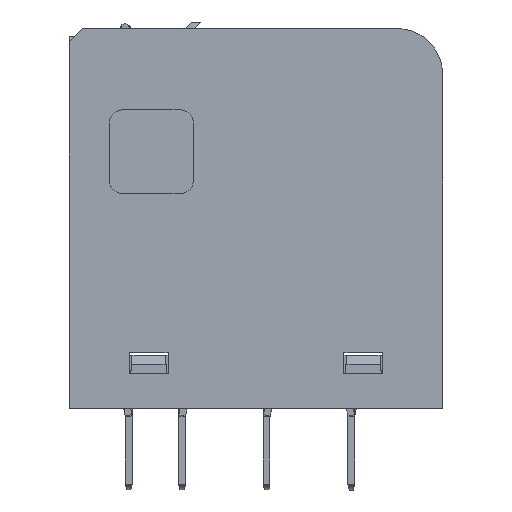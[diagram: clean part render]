
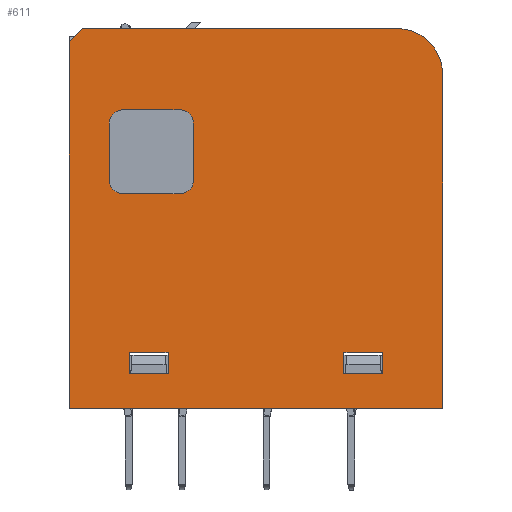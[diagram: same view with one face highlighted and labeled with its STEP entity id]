
A CAD part, top view. The second image highlights one B-rep face of the part: STEP entity #611.
In plain terms, the highlighted planar face has unit normal (0, 0, 1).
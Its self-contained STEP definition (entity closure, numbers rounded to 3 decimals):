
#611=ADVANCED_FACE('',(#7583,#7585,#7587,#7589),#7591,.T.);
#7583=FACE_BOUND('',#7584,.T.);
#7584=EDGE_LOOP('',(#13296,#13297,#13298,#13299,#13300,#13301));
#7585=FACE_BOUND('',#7586,.T.);
#7586=EDGE_LOOP('',(#13302,#13303,#13304,#13305,#13306,#13307,#13308,#13309));
#7587=FACE_BOUND('',#7588,.T.);
#7588=EDGE_LOOP('',(#13310,#13311,#13312,#13313));
#7589=FACE_BOUND('',#7590,.T.);
#7590=EDGE_LOOP('',(#13314,#13315,#13316,#13317));
#7591=PLANE('',#7592);
#7592=AXIS2_PLACEMENT_3D('',#7593,#7594,#7595);
#7593=CARTESIAN_POINT('',(0.,14.4,11.25));
#7594=DIRECTION('',(0.,0.,1.));
#7595=DIRECTION('',(0.,-1.,0.));
#13296=ORIENTED_EDGE('',*,*,#17267,.F.);
#13297=ORIENTED_EDGE('',*,*,#17268,.T.);
#13298=ORIENTED_EDGE('',*,*,#17269,.T.);
#13299=ORIENTED_EDGE('',*,*,#17270,.T.);
#13300=ORIENTED_EDGE('',*,*,#17271,.T.);
#13301=ORIENTED_EDGE('',*,*,#17272,.T.);
#13302=ORIENTED_EDGE('',*,*,#17273,.T.);
#13303=ORIENTED_EDGE('',*,*,#17274,.T.);
#13304=ORIENTED_EDGE('',*,*,#17275,.T.);
#13305=ORIENTED_EDGE('',*,*,#17276,.T.);
#13306=ORIENTED_EDGE('',*,*,#17277,.T.);
#13307=ORIENTED_EDGE('',*,*,#17278,.T.);
#13308=ORIENTED_EDGE('',*,*,#17279,.T.);
#13309=ORIENTED_EDGE('',*,*,#17280,.T.);
#13310=ORIENTED_EDGE('',*,*,#17281,.T.);
#13311=ORIENTED_EDGE('',*,*,#17037,.T.);
#13312=ORIENTED_EDGE('',*,*,#17009,.T.);
#13313=ORIENTED_EDGE('',*,*,#17106,.T.);
#13314=ORIENTED_EDGE('',*,*,#17282,.T.);
#13315=ORIENTED_EDGE('',*,*,#17051,.T.);
#13316=ORIENTED_EDGE('',*,*,#17001,.T.);
#13317=ORIENTED_EDGE('',*,*,#17046,.T.);
#17001=EDGE_CURVE('',#19100,#19098,#19101,.F.);
#17009=EDGE_CURVE('',#19116,#19114,#19117,.F.);
#17037=EDGE_CURVE('',#19166,#19116,#19167,.F.);
#17046=EDGE_CURVE('',#19098,#19180,#19182,.F.);
#17051=EDGE_CURVE('',#19190,#19100,#19191,.F.);
#17106=EDGE_CURVE('',#19114,#19287,#19289,.F.);
#17267=EDGE_CURVE('',#19550,#19551,#19552,.F.);
#17268=EDGE_CURVE('',#19550,#19553,#19554,.T.);
#17269=EDGE_CURVE('',#19553,#19555,#19556,.T.);
#17270=EDGE_CURVE('',#19555,#19557,#19558,.T.);
#17271=EDGE_CURVE('',#19557,#19559,#19560,.T.);
#17272=EDGE_CURVE('',#19559,#19551,#19561,.T.);
#17273=EDGE_CURVE('',#19562,#19563,#19564,.F.);
#17274=EDGE_CURVE('',#19563,#19565,#19566,.F.);
#17275=EDGE_CURVE('',#19565,#19567,#19568,.F.);
#17276=EDGE_CURVE('',#19567,#19569,#19570,.F.);
#17277=EDGE_CURVE('',#19569,#19571,#19572,.F.);
#17278=EDGE_CURVE('',#19571,#19573,#19574,.F.);
#17279=EDGE_CURVE('',#19573,#19575,#19576,.F.);
#17280=EDGE_CURVE('',#19575,#19562,#19577,.F.);
#17281=EDGE_CURVE('',#19287,#19166,#19578,.F.);
#17282=EDGE_CURVE('',#19180,#19190,#19579,.F.);
#19098=VERTEX_POINT('',#22533);
#19100=VERTEX_POINT('',#22537);
#19101=LINE('',#22538,#22539);
#19114=VERTEX_POINT('',#22565);
#19116=VERTEX_POINT('',#22569);
#19117=LINE('',#22570,#22571);
#19166=VERTEX_POINT('',#22675);
#19167=LINE('',#22676,#22677);
#19180=VERTEX_POINT('',#22705);
#19182=LINE('',#22709,#22710);
#19190=VERTEX_POINT('',#22727);
#19191=LINE('',#22728,#22729);
#19287=VERTEX_POINT('',#22934);
#19289=LINE('',#22938,#22939);
#19550=VERTEX_POINT('',#23550);
#19551=VERTEX_POINT('',#23551);
#19552=LINE('',#23552,#23553);
#19553=VERTEX_POINT('',#23555);
#19554=LINE('',#23556,#23557);
#19555=VERTEX_POINT('',#23559);
#19556=LINE('',#23560,#23561);
#19557=VERTEX_POINT('',#23563);
#19558=LINE('',#23564,#23565);
#19559=VERTEX_POINT('',#23567);
#19560=CIRCLE('',#23568,3.4);
#19561=LINE('',#23572,#23573);
#19562=VERTEX_POINT('',#23575);
#19563=VERTEX_POINT('',#23576);
#19564=CIRCLE('',#23577,1.);
#19565=VERTEX_POINT('',#23581);
#19566=LINE('',#23582,#23583);
#19567=VERTEX_POINT('',#23585);
#19568=CIRCLE('',#23586,1.);
#19569=VERTEX_POINT('',#23590);
#19570=LINE('',#23591,#23592);
#19571=VERTEX_POINT('',#23594);
#19572=CIRCLE('',#23595,1.);
#19573=VERTEX_POINT('',#23599);
#19574=LINE('',#23600,#23601);
#19575=VERTEX_POINT('',#23603);
#19576=CIRCLE('',#23604,1.);
#19577=LINE('',#23608,#23609);
#19578=LINE('',#23611,#23612);
#19579=LINE('',#23614,#23615);
#22533=CARTESIAN_POINT('',(6.6,2.6,11.25));
#22537=CARTESIAN_POINT('',(9.5,2.6,11.25));
#22538=CARTESIAN_POINT('',(6.6,2.6,11.25));
#22539=VECTOR('',#22540,1.);
#22540=DIRECTION('',(1.,0.,0.));
#22565=CARTESIAN_POINT('',(-9.5,2.6,11.25));
#22569=CARTESIAN_POINT('',(-6.6,2.6,11.25));
#22570=CARTESIAN_POINT('',(-9.5,2.6,11.25));
#22571=VECTOR('',#22572,1.);
#22572=DIRECTION('',(1.,0.,0.));
#22675=CARTESIAN_POINT('',(-6.6,4.2,11.25));
#22676=CARTESIAN_POINT('',(-6.6,2.6,11.25));
#22677=VECTOR('',#22678,1.);
#22678=DIRECTION('',(0.,1.,0.));
#22705=CARTESIAN_POINT('',(6.6,4.2,11.25));
#22709=CARTESIAN_POINT('',(6.6,4.2,11.25));
#22710=VECTOR('',#22711,1.);
#22711=DIRECTION('',(0.,-1.,0.));
#22727=CARTESIAN_POINT('',(9.5,4.2,11.25));
#22728=CARTESIAN_POINT('',(9.5,2.6,11.25));
#22729=VECTOR('',#22730,1.);
#22730=DIRECTION('',(0.,1.,0.));
#22934=CARTESIAN_POINT('',(-9.5,4.2,11.25));
#22938=CARTESIAN_POINT('',(-9.5,4.2,11.25));
#22939=VECTOR('',#22940,1.);
#22940=DIRECTION('',(0.,-1.,0.));
#23550=CARTESIAN_POINT('',(-14.,27.5,11.25));
#23551=CARTESIAN_POINT('',(-13.,28.5,11.25));
#23552=CARTESIAN_POINT('',(-13.,28.5,11.25));
#23553=VECTOR('',#23554,1.);
#23554=DIRECTION('',(-0.707,-0.707,0.));
#23555=CARTESIAN_POINT('',(-14.,0.,11.25));
#23556=CARTESIAN_POINT('',(-14.,27.5,11.25));
#23557=VECTOR('',#23558,1.);
#23558=DIRECTION('',(0.,-1.,0.));
#23559=CARTESIAN_POINT('',(14.,0.,11.25));
#23560=CARTESIAN_POINT('',(-14.,0.,11.25));
#23561=VECTOR('',#23562,1.);
#23562=DIRECTION('',(1.,0.,0.));
#23563=CARTESIAN_POINT('',(14.,25.1,11.25));
#23564=CARTESIAN_POINT('',(14.,0.,11.25));
#23565=VECTOR('',#23566,1.);
#23566=DIRECTION('',(0.,1.,0.));
#23567=CARTESIAN_POINT('',(10.6,28.5,11.25));
#23568=AXIS2_PLACEMENT_3D('',#23569,#23570,#23571);
#23569=CARTESIAN_POINT('',(10.6,25.1,11.25));
#23570=DIRECTION('',(0.,0.,1.));
#23571=DIRECTION('',(1.,0.,0.));
#23572=CARTESIAN_POINT('',(10.6,28.5,11.25));
#23573=VECTOR('',#23574,1.);
#23574=DIRECTION('',(-1.,0.,0.));
#23575=CARTESIAN_POINT('',(-11.,21.4,11.25));
#23576=CARTESIAN_POINT('',(-10.,22.4,11.25));
#23577=AXIS2_PLACEMENT_3D('',#23578,#23579,#23580);
#23578=CARTESIAN_POINT('',(-10.,21.4,11.25));
#23579=DIRECTION('',(0.,0.,1.));
#23580=DIRECTION('',(0.,1.,0.));
#23581=CARTESIAN_POINT('',(-5.7,22.4,11.25));
#23582=CARTESIAN_POINT('',(-5.7,22.4,11.25));
#23583=VECTOR('',#23584,1.);
#23584=DIRECTION('',(-1.,0.,0.));
#23585=CARTESIAN_POINT('',(-4.7,21.4,11.25));
#23586=AXIS2_PLACEMENT_3D('',#23587,#23588,#23589);
#23587=CARTESIAN_POINT('',(-5.7,21.4,11.25));
#23588=DIRECTION('',(0.,0.,1.));
#23589=DIRECTION('',(1.,0.,0.));
#23590=CARTESIAN_POINT('',(-4.7,17.1,11.25));
#23591=CARTESIAN_POINT('',(-4.7,17.1,11.25));
#23592=VECTOR('',#23593,1.);
#23593=DIRECTION('',(0.,1.,0.));
#23594=CARTESIAN_POINT('',(-5.7,16.1,11.25));
#23595=AXIS2_PLACEMENT_3D('',#23596,#23597,#23598);
#23596=CARTESIAN_POINT('',(-5.7,17.1,11.25));
#23597=DIRECTION('',(0.,0.,1.));
#23598=DIRECTION('',(0.,-1.,0.));
#23599=CARTESIAN_POINT('',(-10.,16.1,11.25));
#23600=CARTESIAN_POINT('',(-10.,16.1,11.25));
#23601=VECTOR('',#23602,1.);
#23602=DIRECTION('',(1.,0.,0.));
#23603=CARTESIAN_POINT('',(-11.,17.1,11.25));
#23604=AXIS2_PLACEMENT_3D('',#23605,#23606,#23607);
#23605=CARTESIAN_POINT('',(-10.,17.1,11.25));
#23606=DIRECTION('',(0.,0.,1.));
#23607=DIRECTION('',(-1.,0.,0.));
#23608=CARTESIAN_POINT('',(-11.,21.4,11.25));
#23609=VECTOR('',#23610,1.);
#23610=DIRECTION('',(0.,-1.,0.));
#23611=CARTESIAN_POINT('',(-6.6,4.2,11.25));
#23612=VECTOR('',#23613,1.);
#23613=DIRECTION('',(-1.,0.,0.));
#23614=CARTESIAN_POINT('',(9.5,4.2,11.25));
#23615=VECTOR('',#23616,1.);
#23616=DIRECTION('',(-1.,0.,0.));
